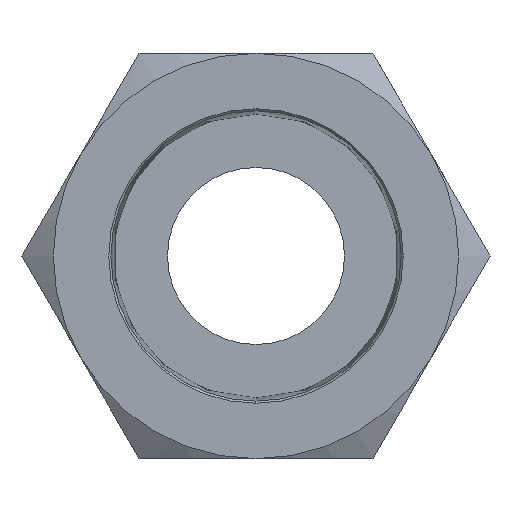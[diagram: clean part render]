
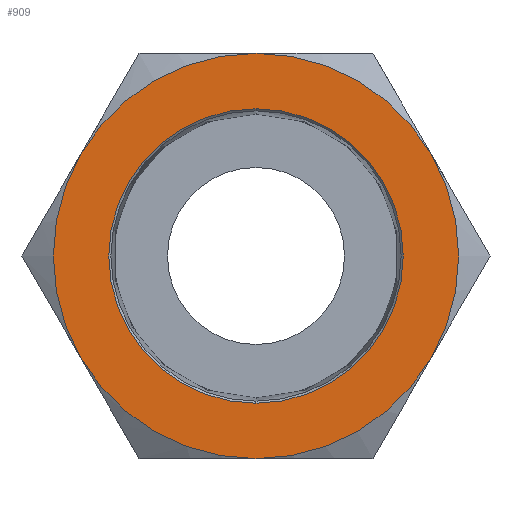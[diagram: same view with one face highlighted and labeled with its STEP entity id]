
A CAD part, left-side view. The second image highlights one B-rep face of the part: STEP entity #909.
In plain terms, the highlighted planar face has unit normal (-1, 0, 0).
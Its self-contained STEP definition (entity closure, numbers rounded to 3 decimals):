
#114 = CARTESIAN_POINT ( 'NONE',  ( 0., 0., -11.905 ) ) ;
#147 = CARTESIAN_POINT ( 'NONE',  ( 0., -10.31, -5.952 ) ) ;
#172 = CARTESIAN_POINT ( 'NONE',  ( 0., 10.31, -5.953 ) ) ;
#279 = CARTESIAN_POINT ( 'NONE',  ( 0., 0., -8.65 ) ) ;
#384 = CARTESIAN_POINT ( 'NONE',  ( 0., 0., 8.65 ) ) ;
#385 = DIRECTION ( 'NONE',  ( 0., 0., 1. ) ) ;
#386 = DIRECTION ( 'NONE',  ( -1., 0., 0. ) ) ;
#387 = CARTESIAN_POINT ( 'NONE',  ( 0., 0., 0. ) ) ;
#388 = AXIS2_PLACEMENT_3D ( 'NONE', #387, #386, #385 ) ;
#389 = CIRCLE ( 'NONE', #388, 8.65 ) ;
#627 = CARTESIAN_POINT ( 'NONE',  ( 0., -10.31, 5.953 ) ) ;
#789 = CARTESIAN_POINT ( 'NONE',  ( 0., 10.31, 5.952 ) ) ;
#835 = CARTESIAN_POINT ( 'NONE',  ( 0., 0., 11.905 ) ) ;
#909 = ADVANCED_FACE ( 'NONE', ( #1713, #1712 ), #1710, .F. ) ;
#910 = EDGE_LOOP ( 'NONE', ( #911, #913 ) ) ;
#911 = ORIENTED_EDGE ( 'NONE', *, *, #912, .F. ) ;
#912 = EDGE_CURVE ( 'NONE', #1189, #1186, #1697, .T. ) ;
#913 = ORIENTED_EDGE ( 'NONE', *, *, #1188, .F. ) ;
#914 = EDGE_LOOP ( 'NONE', ( #952, #954, #956, #958, #966, #968 ) ) ;
#952 = ORIENTED_EDGE ( 'NONE', *, *, #953, .F. ) ;
#953 = EDGE_CURVE ( 'NONE', #1091, #1110, #1546, .T. ) ;
#954 = ORIENTED_EDGE ( 'NONE', *, *, #955, .F. ) ;
#955 = EDGE_CURVE ( 'NONE', #1119, #1091, #1540, .T. ) ;
#956 = ORIENTED_EDGE ( 'NONE', *, *, #957, .F. ) ;
#957 = EDGE_CURVE ( 'NONE', #1072, #1119, #1535, .T. ) ;
#958 = ORIENTED_EDGE ( 'NONE', *, *, #959, .F. ) ;
#959 = EDGE_CURVE ( 'NONE', #1051, #1072, #1530, .T. ) ;
#966 = ORIENTED_EDGE ( 'NONE', *, *, #967, .T. ) ;
#967 = EDGE_CURVE ( 'NONE', #1051, #1034, #1509, .T. ) ;
#968 = ORIENTED_EDGE ( 'NONE', *, *, #969, .F. ) ;
#969 = EDGE_CURVE ( 'NONE', #1110, #1034, #1504, .T. ) ;
#1034 = VERTEX_POINT ( 'NONE', #789 ) ;
#1051 = VERTEX_POINT ( 'NONE', #835 ) ;
#1072 = VERTEX_POINT ( 'NONE', #627 ) ;
#1091 = VERTEX_POINT ( 'NONE', #114 ) ;
#1110 = VERTEX_POINT ( 'NONE', #172 ) ;
#1119 = VERTEX_POINT ( 'NONE', #147 ) ;
#1186 = VERTEX_POINT ( 'NONE', #279 ) ;
#1188 = EDGE_CURVE ( 'NONE', #1186, #1189, #389, .T. ) ;
#1189 = VERTEX_POINT ( 'NONE', #384 ) ;
#1500 = DIRECTION ( 'NONE',  ( 0., 0., -1. ) ) ;
#1501 = DIRECTION ( 'NONE',  ( 1., 0., 0. ) ) ;
#1502 = CARTESIAN_POINT ( 'NONE',  ( 0., 0., 0. ) ) ;
#1503 = AXIS2_PLACEMENT_3D ( 'NONE', #1502, #1501, #1500 ) ;
#1504 = CIRCLE ( 'NONE', #1503, 11.905 ) ;
#1505 = DIRECTION ( 'NONE',  ( 0., 0., 1. ) ) ;
#1506 = DIRECTION ( 'NONE',  ( -1., 0., 0. ) ) ;
#1507 = CARTESIAN_POINT ( 'NONE',  ( 0., 0., 0. ) ) ;
#1508 = AXIS2_PLACEMENT_3D ( 'NONE', #1507, #1506, #1505 ) ;
#1509 = CIRCLE ( 'NONE', #1508, 11.905 ) ;
#1526 = DIRECTION ( 'NONE',  ( 0., 0., -1. ) ) ;
#1527 = DIRECTION ( 'NONE',  ( 1., 0., 0. ) ) ;
#1528 = CARTESIAN_POINT ( 'NONE',  ( 0., 0., 0. ) ) ;
#1529 = AXIS2_PLACEMENT_3D ( 'NONE', #1528, #1527, #1526 ) ;
#1530 = CIRCLE ( 'NONE', #1529, 11.905 ) ;
#1531 = DIRECTION ( 'NONE',  ( 0., 0., -1. ) ) ;
#1532 = DIRECTION ( 'NONE',  ( 1., 0., 0. ) ) ;
#1533 = CARTESIAN_POINT ( 'NONE',  ( 0., 0., 0. ) ) ;
#1534 = AXIS2_PLACEMENT_3D ( 'NONE', #1533, #1532, #1531 ) ;
#1535 = CIRCLE ( 'NONE', #1534, 11.905 ) ;
#1536 = DIRECTION ( 'NONE',  ( 0., 0., -1. ) ) ;
#1537 = DIRECTION ( 'NONE',  ( 1., 0., 0. ) ) ;
#1538 = CARTESIAN_POINT ( 'NONE',  ( 0., 0., 0. ) ) ;
#1539 = AXIS2_PLACEMENT_3D ( 'NONE', #1538, #1537, #1536 ) ;
#1540 = CIRCLE ( 'NONE', #1539, 11.905 ) ;
#1541 = DIRECTION ( 'NONE',  ( 0., 0., -1. ) ) ;
#1542 = DIRECTION ( 'NONE',  ( 1., 0., 0. ) ) ;
#1543 = CARTESIAN_POINT ( 'NONE',  ( 0., 0., 0. ) ) ;
#1544 = AXIS2_PLACEMENT_3D ( 'NONE', #1543, #1542, #1541 ) ;
#1546 = CIRCLE ( 'NONE', #1544, 11.905 ) ;
#1693 = DIRECTION ( 'NONE',  ( 0., 0., 1. ) ) ;
#1694 = DIRECTION ( 'NONE',  ( -1., 0., 0. ) ) ;
#1695 = CARTESIAN_POINT ( 'NONE',  ( 0., 0., 0. ) ) ;
#1696 = AXIS2_PLACEMENT_3D ( 'NONE', #1695, #1694, #1693 ) ;
#1697 = CIRCLE ( 'NONE', #1696, 8.65 ) ;
#1698 = DIRECTION ( 'NONE',  ( 0., 0., -1. ) ) ;
#1699 = DIRECTION ( 'NONE',  ( 1., 0., 0. ) ) ;
#1708 = AXIS2_PLACEMENT_3D ( 'NONE', #1709, #1699, #1698 ) ;
#1709 = CARTESIAN_POINT ( 'NONE',  ( 0., 13.747, 0. ) ) ;
#1710 = PLANE ( 'NONE',  #1708 ) ;
#1712 = FACE_OUTER_BOUND ( 'NONE', #914, .T. ) ;
#1713 = FACE_BOUND ( 'NONE', #910, .T. ) ;
